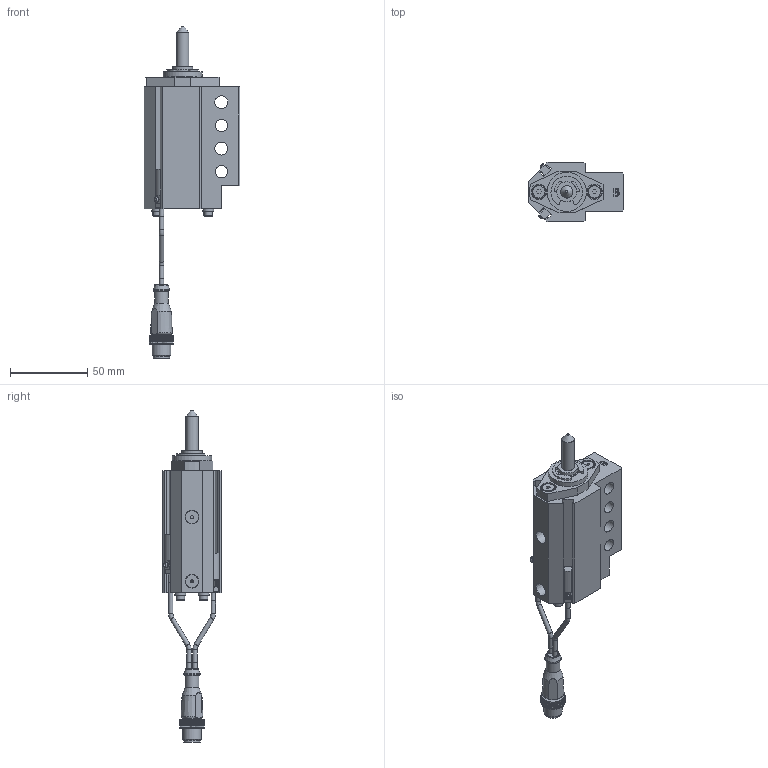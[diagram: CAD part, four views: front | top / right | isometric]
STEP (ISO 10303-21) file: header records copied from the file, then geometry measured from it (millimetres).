
FILE_DESCRIPTION(/* description */ ('NAAMS FLOATING MICRO PIN'),/* implementation_level */ '2;1');
FILE_NAME(/* name */ 'C:\Vault Workspace\CAD\Welker\Shot Pin\NMP\Step files\8mm Pin Dia\NMP080022BANL3.stp',/* time_stamp */ '2021-01-27T08:40:13-05:00',/* author */ ('WELKER'),/* organization */ (''),/* preprocessor_version */ 'ST-DEVELOPER v18.1',/* originating_system */ 'Autodesk Inventor 2020',/* authorisation */ '');
FILE_SCHEMA (('AUTOMOTIVE_DESIGN { 1 0 10303 214 3 1 1 }'));
Length unit declared in the file: millimetre
Products named in the file (16): NMPL01; NMP L3 SWITCH; L3 Connector; L3 Sensor 1; L3 Sensor 2; L3 Sensor cable; L3 Sensor cable 2; M3X0.5-8 SHCS; NL3; NMPE06; NMPE03; NMPE05-DIA-LENGTH; 985432A218; NMPE01B-PORT; RMPE02; M5X5 SHOULDER
Assembly tree (22 placements, depth 3):
  NMPL01
    NMP L3 SWITCH
      L3 Connector
      L3 Sensor 1
      L3 Sensor 2
      L3 Sensor cable
      L3 Sensor cable 2
    M3X0.5-8 SHCS  x4
    NL3  x4
    NMPE06
    NMPE03
    NMPE05-DIA-LENGTH
    985432A218
    NMPE01B-PORT
    RMPE02
    M5X5 SHOULDER  x2
Bounding box: 62 x 38.1 x 214.73 mm (x, y, z)
Volume: 110998.4 mm3; surface area: 45387.7 mm2
Topology: 21 solids, 21 shells, 758 faces, 2052 edges, 1372 vertices
Faces by surface type: plane 553, cylinder 144, cone 31, bspline 16, torus 11, sphere 3
Full cylindrical faces by diameter (mm): 2 x2, 2.459 x4, 2.9 x10, 3 x5, 3.242 x2, 3.4 x4, 4 x2, 5 x6, 5.5 x4, 7 x4, 8 x3, 8.3 x2, 8.376 x2, 9 x3, 10 x3, 10.4 x1, 10.5 x1, 12 x1, 13 x3, 16 x2, 19.05 x3, 21 x1, 22.5 x1, 23.672 x1, 24 x1, 25.4 x1, 25.5 x1, 26.5 x1, 28.677 x1, 29.21 x1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
Entity records: 23201 total; most frequent: CARTESIAN_POINT 4367, ORIENTED_EDGE 3802, DIRECTION 3727, EDGE_CURVE 1901, LINE 1393, VECTOR 1393, VERTEX_POINT 1277, AXIS2_PLACEMENT_3D 1167
